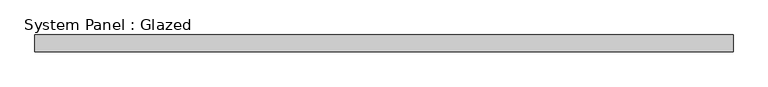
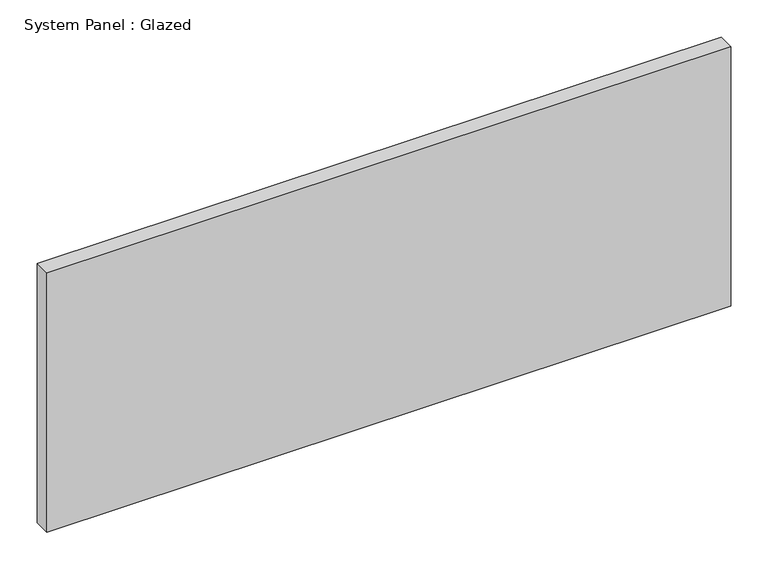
"""IFC4 building model written with IfcOpenShell, lengths in millimetres: plate geometry, System Panel : Glazed."""

from ifc_helpers import new_model, si_unit, origin, origin_with_axes, place, context, project, spatial, polyline, outline, extrude, source, transform, mapped, element, save


def system_panel_glazed_2b0694d5(model_context):
    return source(origin(), model_context, "Body", "SweptSolid", [
        extrude(outline(polyline([(528.3200001, -44.45), (-528.3200001, -44.45), (-528.3200001, -19.05), (528.3200001, -19.05), (528.3200001, -44.45)])), origin_with_axes(), (0.0, 0.0, 1.0), 424.18),
    ])


if __name__ == "__main__":
    model = new_model("IFC4")
    model_context = context("Model", 3, world=origin())
    ifc_project = project(units=[si_unit("LENGTHUNIT", "METRE", prefix="MILLI")], contexts=[model_context])
    site = spatial("IfcSite", under=ifc_project)
    building = spatial("IfcBuilding", under=site)
    placement = place(None, origin())
    system_panel_glazed_shape = system_panel_glazed_2b0694d5(model_context)
    element("IfcPlate", 1, ObjectType="System Panel : Glazed", at=placement, inside=building, context=model_context, shape_type="MappedRepresentation", body=[
        mapped(system_panel_glazed_shape, transform((0.0, 0.0, 0.0), x_axis=(1.0, 0.0, 0.0), y_axis=(0.0, 1.0, 0.0), z_axis=(0.0, 0.0, 1.0))),
    ])
    save(model, "model.ifc")
